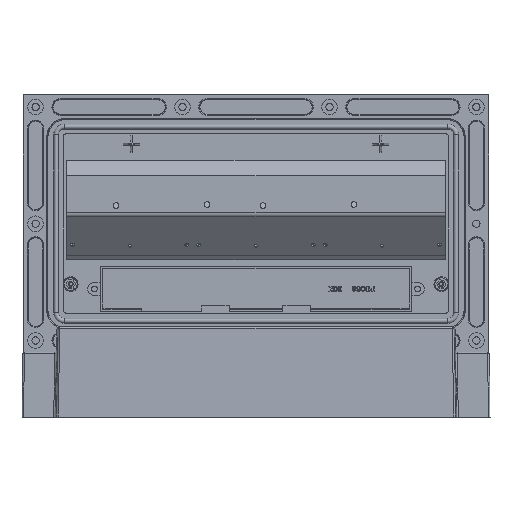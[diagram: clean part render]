
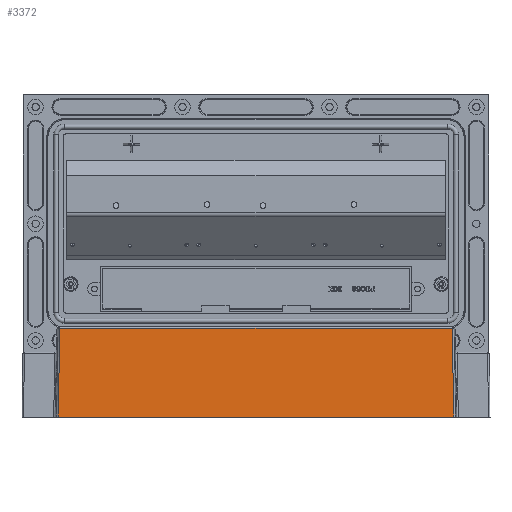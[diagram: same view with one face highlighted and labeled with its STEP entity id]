
A CAD part, top view. The second image highlights one B-rep face of the part: STEP entity #3372.
In plain terms, the highlighted planar face has unit normal (0, 0.018, 1) as drawn and (0, -1, -0.017) by its records, which use the part's own axes.
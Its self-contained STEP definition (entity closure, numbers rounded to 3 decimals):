
#55=CARTESIAN_POINT('',(121.14,-55.76,55.));
#57=DIRECTION('',(-1.,0.,0.));
#58=VECTOR('',#57,242.281);
#59=CARTESIAN_POINT('',(121.14,-55.76,55.));
#60=LINE('',#59,#58);
#197=DIRECTION('',(-0.017,-0.017,1.));
#198=VECTOR('',#197,54.337);
#199=CARTESIAN_POINT('',(-120.209,-54.812,
0.68));
#200=LINE('',#199,#198);
#201=DIRECTION('',(-0.017,0.017,-1.));
#202=VECTOR('',#201,54.337);
#203=CARTESIAN_POINT('',(121.14,-55.76,55.));
#204=LINE('',#203,#202);
#209=DIRECTION('',(1.,0.,0.));
#210=VECTOR('',#209,240.417);
#211=CARTESIAN_POINT('',(-120.209,-54.812,
0.68));
#212=LINE('',#211,#210);
#2782=VERTEX_POINT('',#55);
#2783=CARTESIAN_POINT('',(-121.14,-55.76,55.));
#2784=VERTEX_POINT('',#2783);
#2831=CARTESIAN_POINT('',(-120.209,-54.812,
0.68));
#2832=VERTEX_POINT('',#2831);
#2833=CARTESIAN_POINT('',(120.209,-54.812,
0.68));
#2834=VERTEX_POINT('',#2833);
#3359=CARTESIAN_POINT('',(127.224,-54.8,0.));
#3360=DIRECTION('',(0.,1.,0.017));
#3361=DIRECTION('',(-1.,0.,0.));
#3362=AXIS2_PLACEMENT_3D('',#3359,#3360,#3361);
#3363=PLANE('',#3362);
#3365=ORIENTED_EDGE('',*,*,#3364,.F.);
#3366=ORIENTED_EDGE('',*,*,#3351,.T.);
#3367=ORIENTED_EDGE('',*,*,#3229,.F.);
#3369=ORIENTED_EDGE('',*,*,#3368,.T.);
#3370=EDGE_LOOP('',(#3365,#3366,#3367,#3369));
#3371=FACE_OUTER_BOUND('',#3370,.F.);
#3372=ADVANCED_FACE('',(#3371),#3363,.F.);
#3229=EDGE_CURVE('',#2782,#2784,#60,.T.);
#3351=EDGE_CURVE('',#2832,#2784,#200,.T.);
#3364=EDGE_CURVE('',#2832,#2834,#212,.T.);
#3368=EDGE_CURVE('',#2782,#2834,#204,.T.);
